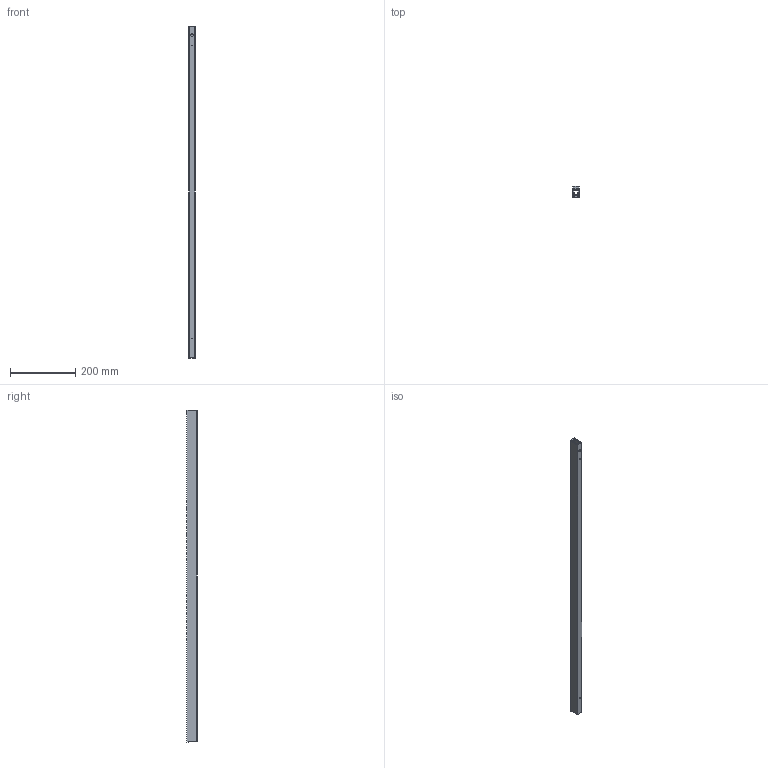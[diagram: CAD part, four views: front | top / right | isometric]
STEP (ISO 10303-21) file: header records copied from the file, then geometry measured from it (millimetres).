
FILE_DESCRIPTION((''),'2;1');
FILE_NAME('ACC97013_SW0001','2025-07-24T11:44:30',('Piccioli'),(''),'CREO PARAMETRIC BY PTC INC, 2025010','CREO PARAMETRIC BY PTC INC, 2025010','');
FILE_SCHEMA(('CONFIG_CONTROL_DESIGN'));
Length unit declared in the file: millimetre
Products named in the file (1): ACC97013_SW0001
Bounding box: 20 x 32.5 x 1018 mm (x, y, z)
Surface area: 103337 mm2 (no closed solid volume)
Topology: 0 solids, 11 shells, 18 faces, 266 edges, 256 vertices
Faces by surface type: plane 18
Entity records: 3134 total; most frequent: CARTESIAN_POINT 1360, DIRECTION 319, ORIENTED_EDGE 280, EDGE_CURVE 266, VERTEX_POINT 256, VECTOR 127, LINE 127, AXIS2_PLACEMENT_3D 96
